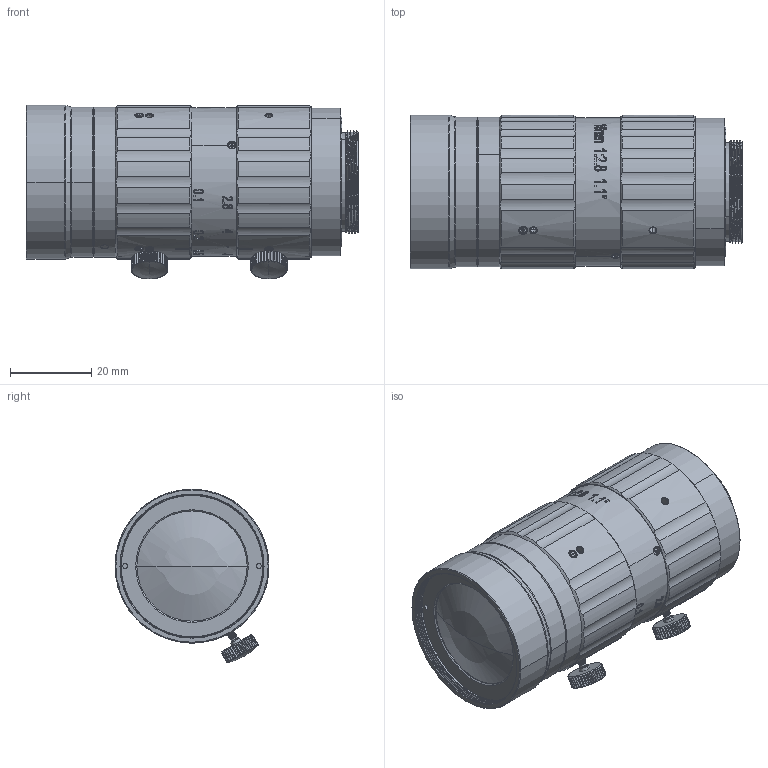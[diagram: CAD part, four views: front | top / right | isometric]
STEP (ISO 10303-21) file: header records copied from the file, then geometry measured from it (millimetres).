
FILE_DESCRIPTION((''),'2;1');
FILE_NAME('FA1620A-200_ASM','2025-04-18T09:07:18',('Admin'),(''),'CREO PARAMETRIC BY PTC INC, 2022073','CREO PARAMETRIC BY PTC INC, 2022073','');
FILE_SCHEMA(('CONFIG_CONTROL_DESIGN'));
Products named in the file (95): FA2520A-505_AF0; FA1210A-506_AF0; FA2520A-508_AF0; FA2520A-509_AF0; FA2520A-507_AF0; FA2520A-510_AF0; FA1210A-501_AF0; FA1210A-304_AF0; HC1605A-513_AF0; FA1210A-303_AF0; FA1210A-302_AF0; HC1605A-512_AF0; FA1210A-301_AF0; FA1210A-511_AF0; FA1210A-201_AF0_ASM; M14402001_AF0; M14402001_AF1; M14402001_AF2; FA2520A-502_AF0; FA1210A-305_AF0; FA1210A-306_AF0; HC1605A-514_AF0; FA1210A-307_AF0; HC1605A-515_AF0; FA1210A-308_AF0; FA1210A-309_AF0; FA2520A-516_AF0; FA1210A-310_AF0; FA1210A-312_AF0; FA1210A-311_AF0; FA2520A-517_AF0; FA2520A-518_AF0; FA2520A-503_AF0; MA136-02-02_AF0; MA136-02-02_AF1; MA136-02-03_AF0; MA117-02-19________AF0; MA117-02-19________AF1; MA136-01-01_AF0_ASM; MA136-02-03_AF1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
Assembly tree (94 placements, depth 6):
  FA1620A-200_ASM
    FA2520A-505_AF0
    FA1210A-506_AF0
    FA2520A-508_AF0
    FA2520A-509_AF0
    FA2520A-507_AF0
    FA2520A-510_AF0
    FA1210A-201_AF0_ASM
      FA1210A-501_AF0
      FA1210A-304_AF0
      HC1605A-513_AF0
      FA1210A-303_AF0
      FA1210A-302_AF0
      HC1605A-512_AF0
      FA1210A-301_AF0
      FA1210A-511_AF0
    M14402001_AF0
    M14402001_AF1
    M14402001_AF2
    FA1210A-202_AF0_ASM
      FA2520A-502_AF0
      FA1210A-305_AF0
      FA1210A-306_AF0
      HC1605A-514_AF0
      FA1210A-307_AF0
      HC1605A-515_AF0
      FA1210A-308_AF0
      FA1210A-309_AF0
      FA2520A-516_AF0
      FA1210A-310_AF0
      FA1210A-312_AF0
      FA1210A-311_AF0
      FA2520A-517_AF0
      FA2520A-518_AF0
      FA2520A-503_AF0
      MA136-00-01_AF0_ASM
        ASM0001_AF0_ASM
          MA136-02-02_AF0
          MA136-02-02_AF1
          MA136-01-01_AF0_ASM
            MA136-02-03_AF0
            MA117-02-19________AF0
            MA117-02-19________AF1
          MA136-01-01_AF1_ASM
            MA136-02-03_AF1
            MA117-02-19________AF2
            MA117-02-19________AF3
          MA136-01-01_AF2_ASM
            MA136-02-03_AF2
            MA117-02-19________AF4
            MA117-02-19________AF5
          MA136-01-01_AF3_ASM
            MA136-02-03_AF3
            MA117-02-19________AF6
            MA117-02-19________AF7
          MA136-01-01_AF4_ASM
            MA136-02-03_AF4
            MA117-02-19________AF8
            MA117-02-19________AF9
          MA136-01-01_AF5_ASM
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Bounding box: 81.95 x 38 x 42.9 mm (x, y, z)
Volume: 25453.3 mm3; surface area: 34965.8 mm2
Topology: 27 solids, 27 shells, 1770 faces, 4513 edges, 2866 vertices
Faces by surface type: bspline 526, cylinder 490, plane 448, cone 258, torus 40, sphere 8
Entity records: 89970 total; most frequent: CARTESIAN_POINT 48475, ORIENTED_EDGE 9002, DIRECTION 7282, EDGE_CURVE 4501, VERTEX_POINT 2866, AXIS2_PLACEMENT_3D 2793, EDGE_LOOP 1925, FACE_OUTER_BOUND 1770
